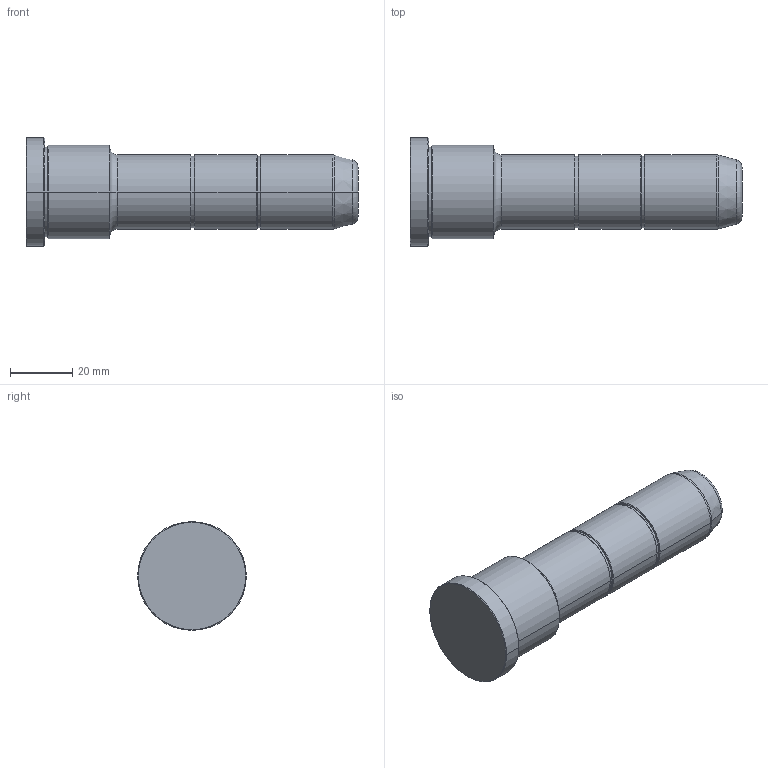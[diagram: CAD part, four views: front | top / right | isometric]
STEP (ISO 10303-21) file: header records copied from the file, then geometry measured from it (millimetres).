
FILE_DESCRIPTION (( 'STEP AP214' ), '1' );
FILE_NAME ('R01_027x24x080.STEP', '2015-03-05T14:04:29', ( 'TGL' ), ( '' ), 'SwSTEP 2.0', 'SolidWorks 2011', '' );
FILE_SCHEMA (( 'AUTOMOTIVE_DESIGN' ));
Length unit declared in the file: millimetre
Products named in the file (1): R01_027x24x080
Bounding box: 107 x 35 x 35 mm (x, y, z)
Volume: 56123.5 mm3; surface area: 10450.1 mm2
Topology: 1 solids, 1 shells, 49 faces, 96 edges, 56 vertices
Faces by surface type: cone 18, cylinder 16, plane 9, torus 6
Entity records: 1426 total; most frequent: DIRECTION 258, CARTESIAN_POINT 202, ORIENTED_EDGE 192, AXIS2_PLACEMENT_3D 112, EDGE_CURVE 96, CIRCLE 62, VERTEX_POINT 56, EDGE_LOOP 56
